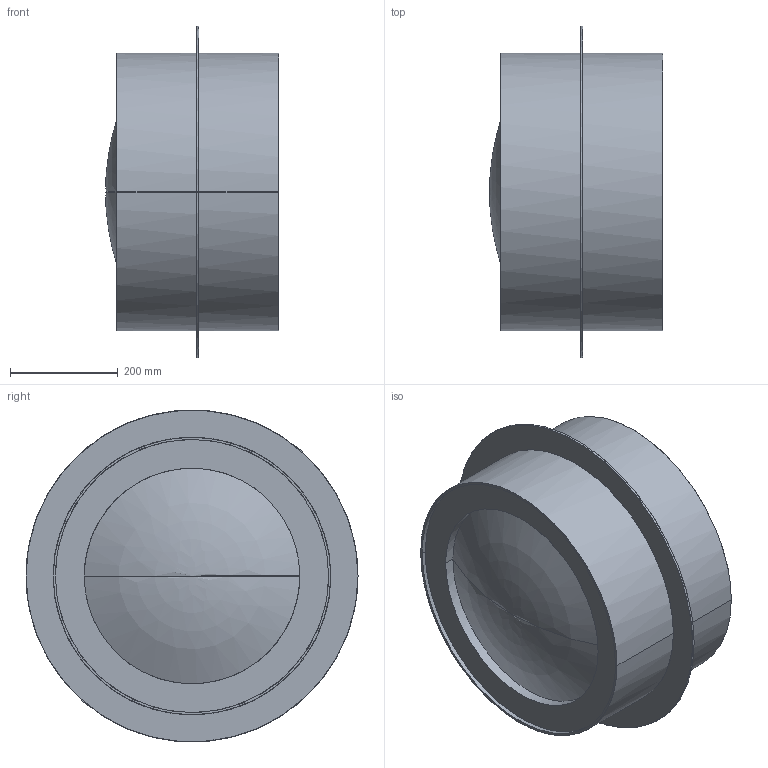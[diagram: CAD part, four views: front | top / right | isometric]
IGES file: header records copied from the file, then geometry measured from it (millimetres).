
Start section:  PTC IGES file: 52057281.igs
Global section: file name: 52057281.igs; native system: Creo Parametric by PTC Inc.; preprocessor: 2022162; author: ka; organization: Unknown; date: 20240215.144239; units: millimetre
Bounding box: 321 x 616 x 614.98 mm (x, y, z)
Surface area: 1545910.4 mm2 (no closed solid volume)
Topology: 0 solids, 0 shells, 60 faces, 240 edges, 236 vertices
Faces by surface type: revolution 42, bspline 18
